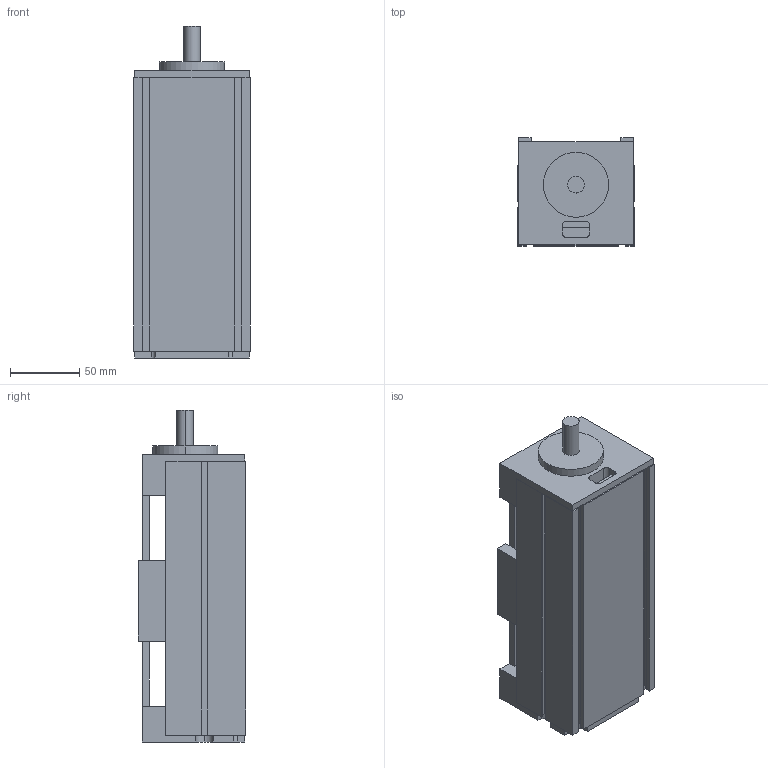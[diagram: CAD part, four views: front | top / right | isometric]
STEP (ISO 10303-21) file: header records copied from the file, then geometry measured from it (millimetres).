
FILE_DESCRIPTION (( 'STEP AP203' ), '1' );
FILE_NAME ('MSX84B-100-LL2010-P7短面板式 .STEP', '2013-11-02T03:06:15', ( '微软用户' ), ( '微软中国' ), 'SwSTEP 2.0', 'SolidWorks 2010', '' );
FILE_SCHEMA (( 'CONFIG_CONTROL_DESIGN' ));
Length unit declared in the file: millimetre
Products named in the file (1): MSX84B-100-LL2010-P7傻醱啣宒 
Bounding box: 84 x 78 x 240 mm (x, y, z)
Volume: 789012.5 mm3; surface area: 179577.5 mm2
Topology: 1 solids, 1 shells, 158 faces, 449 edges, 286 vertices
Faces by surface type: plane 126, cylinder 24, cone 8
Entity records: 5074 total; most frequent: CARTESIAN_POINT 886, ORIENTED_EDGE 882, DIRECTION 807, EDGE_CURVE 441, LINE 393, VECTOR 393, VERTEX_POINT 286, AXIS2_PLACEMENT_3D 207
